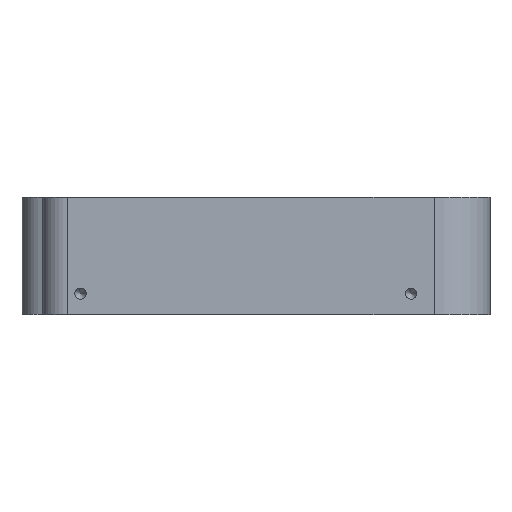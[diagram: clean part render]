
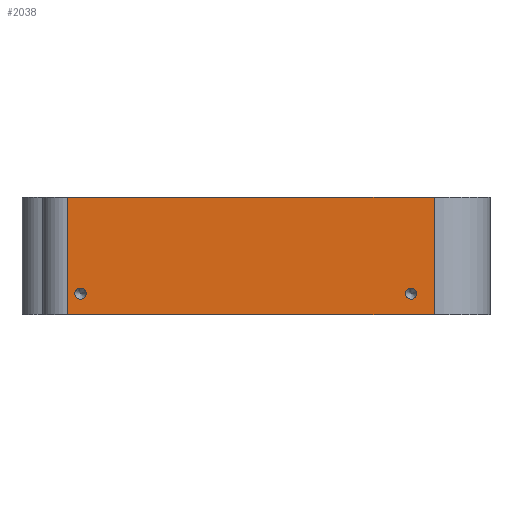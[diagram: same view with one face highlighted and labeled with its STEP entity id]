
A CAD part, left-side view. The second image highlights one B-rep face of the part: STEP entity #2038.
In plain terms, the highlighted planar face has unit normal (-1, 0, 0).
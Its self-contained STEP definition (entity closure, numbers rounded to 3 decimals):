
#44 = CYLINDRICAL_SURFACE('',#45,5.);
#45 = AXIS2_PLACEMENT_3D('',#46,#47,#48);
#46 = CARTESIAN_POINT('',(0.5,52.,0.));
#47 = DIRECTION('',(-0.,-0.,-1.));
#48 = DIRECTION('',(1.,0.,0.));
#72 = PLANE('',#73);
#73 = AXIS2_PLACEMENT_3D('',#74,#75,#76);
#74 = CARTESIAN_POINT('',(100.,14.825,23.));
#75 = DIRECTION('',(0.,0.,1.));
#76 = DIRECTION('',(1.,0.,0.));
#126 = PLANE('',#127);
#127 = AXIS2_PLACEMENT_3D('',#128,#129,#130);
#128 = CARTESIAN_POINT('',(100.,14.825,0.));
#129 = DIRECTION('',(0.,0.,1.));
#130 = DIRECTION('',(1.,0.,0.));
#174 = VERTEX_POINT('',#175);
#175 = CARTESIAN_POINT('',(-4.5,52.,23.));
#197 = EDGE_CURVE('',#198,#174,#200,.T.);
#198 = VERTEX_POINT('',#199);
#199 = CARTESIAN_POINT('',(-4.5,52.,0.));
#200 = SURFACE_CURVE('',#201,(#205,#212),.PCURVE_S1.);
#201 = LINE('',#202,#203);
#202 = CARTESIAN_POINT('',(-4.5,52.,0.));
#203 = VECTOR('',#204,1.);
#204 = DIRECTION('',(0.,0.,1.));
#205 = PCURVE('',#44,#206);
#206 = DEFINITIONAL_REPRESENTATION('',(#207),#211);
#207 = LINE('',#208,#209);
#208 = CARTESIAN_POINT('',(-3.142,0.));
#209 = VECTOR('',#210,1.);
#210 = DIRECTION('',(-0.,-1.));
#211 = ( GEOMETRIC_REPRESENTATION_CONTEXT(2) 
PARAMETRIC_REPRESENTATION_CONTEXT() REPRESENTATION_CONTEXT('2D SPACE',''
  ) );
#212 = PCURVE('',#213,#218);
#213 = PLANE('',#214);
#214 = AXIS2_PLACEMENT_3D('',#215,#216,#217);
#215 = CARTESIAN_POINT('',(-4.5,52.,0.));
#216 = DIRECTION('',(1.,0.,0.));
#217 = DIRECTION('',(0.,-1.,0.));
#218 = DEFINITIONAL_REPRESENTATION('',(#219),#223);
#219 = LINE('',#220,#221);
#220 = CARTESIAN_POINT('',(0.,0.));
#221 = VECTOR('',#222,1.);
#222 = DIRECTION('',(0.,-1.));
#223 = ( GEOMETRIC_REPRESENTATION_CONTEXT(2) 
PARAMETRIC_REPRESENTATION_CONTEXT() REPRESENTATION_CONTEXT('2D SPACE',''
  ) );
#252 = EDGE_CURVE('',#198,#253,#255,.T.);
#253 = VERTEX_POINT('',#254);
#254 = CARTESIAN_POINT('',(-4.5,-20.,0.));
#255 = SURFACE_CURVE('',#256,(#260,#267),.PCURVE_S1.);
#256 = LINE('',#257,#258);
#257 = CARTESIAN_POINT('',(-4.5,52.,0.));
#258 = VECTOR('',#259,1.);
#259 = DIRECTION('',(0.,-1.,0.));
#260 = PCURVE('',#126,#261);
#261 = DEFINITIONAL_REPRESENTATION('',(#262),#266);
#262 = LINE('',#263,#264);
#263 = CARTESIAN_POINT('',(-104.5,37.175));
#264 = VECTOR('',#265,1.);
#265 = DIRECTION('',(0.,-1.));
#266 = ( GEOMETRIC_REPRESENTATION_CONTEXT(2) 
PARAMETRIC_REPRESENTATION_CONTEXT() REPRESENTATION_CONTEXT('2D SPACE',''
  ) );
#267 = PCURVE('',#213,#268);
#268 = DEFINITIONAL_REPRESENTATION('',(#269),#273);
#269 = LINE('',#270,#271);
#270 = CARTESIAN_POINT('',(0.,0.));
#271 = VECTOR('',#272,1.);
#272 = DIRECTION('',(1.,0.));
#273 = ( GEOMETRIC_REPRESENTATION_CONTEXT(2) 
PARAMETRIC_REPRESENTATION_CONTEXT() REPRESENTATION_CONTEXT('2D SPACE',''
  ) );
#292 = CYLINDRICAL_SURFACE('',#293,11.);
#293 = AXIS2_PLACEMENT_3D('',#294,#295,#296);
#294 = CARTESIAN_POINT('',(6.5,-20.,0.));
#295 = DIRECTION('',(-0.,-0.,-1.));
#296 = DIRECTION('',(1.,0.,0.));
#926 = EDGE_CURVE('',#174,#927,#929,.T.);
#927 = VERTEX_POINT('',#928);
#928 = CARTESIAN_POINT('',(-4.5,-20.,23.));
#929 = SURFACE_CURVE('',#930,(#934,#941),.PCURVE_S1.);
#930 = LINE('',#931,#932);
#931 = CARTESIAN_POINT('',(-4.5,52.,23.));
#932 = VECTOR('',#933,1.);
#933 = DIRECTION('',(0.,-1.,0.));
#934 = PCURVE('',#72,#935);
#935 = DEFINITIONAL_REPRESENTATION('',(#936),#940);
#936 = LINE('',#937,#938);
#937 = CARTESIAN_POINT('',(-104.5,37.175));
#938 = VECTOR('',#939,1.);
#939 = DIRECTION('',(0.,-1.));
#940 = ( GEOMETRIC_REPRESENTATION_CONTEXT(2) 
PARAMETRIC_REPRESENTATION_CONTEXT() REPRESENTATION_CONTEXT('2D SPACE',''
  ) );
#941 = PCURVE('',#213,#942);
#942 = DEFINITIONAL_REPRESENTATION('',(#943),#947);
#943 = LINE('',#944,#945);
#944 = CARTESIAN_POINT('',(0.,-23.));
#945 = VECTOR('',#946,1.);
#946 = DIRECTION('',(1.,0.));
#947 = ( GEOMETRIC_REPRESENTATION_CONTEXT(2) 
PARAMETRIC_REPRESENTATION_CONTEXT() REPRESENTATION_CONTEXT('2D SPACE',''
  ) );
#2038 = ADVANCED_FACE('',(#2039,#2065,#2100),#213,.F.);
#2039 = FACE_BOUND('',#2040,.F.);
#2040 = EDGE_LOOP('',(#2041,#2042,#2043,#2064));
#2041 = ORIENTED_EDGE('',*,*,#197,.T.);
#2042 = ORIENTED_EDGE('',*,*,#926,.T.);
#2043 = ORIENTED_EDGE('',*,*,#2044,.F.);
#2044 = EDGE_CURVE('',#253,#927,#2045,.T.);
#2045 = SURFACE_CURVE('',#2046,(#2050,#2057),.PCURVE_S1.);
#2046 = LINE('',#2047,#2048);
#2047 = CARTESIAN_POINT('',(-4.5,-20.,0.));
#2048 = VECTOR('',#2049,1.);
#2049 = DIRECTION('',(0.,0.,1.));
#2050 = PCURVE('',#213,#2051);
#2051 = DEFINITIONAL_REPRESENTATION('',(#2052),#2056);
#2052 = LINE('',#2053,#2054);
#2053 = CARTESIAN_POINT('',(72.,0.));
#2054 = VECTOR('',#2055,1.);
#2055 = DIRECTION('',(0.,-1.));
#2056 = ( GEOMETRIC_REPRESENTATION_CONTEXT(2) 
PARAMETRIC_REPRESENTATION_CONTEXT() REPRESENTATION_CONTEXT('2D SPACE',''
  ) );
#2057 = PCURVE('',#292,#2058);
#2058 = DEFINITIONAL_REPRESENTATION('',(#2059),#2063);
#2059 = LINE('',#2060,#2061);
#2060 = CARTESIAN_POINT('',(-3.142,0.));
#2061 = VECTOR('',#2062,1.);
#2062 = DIRECTION('',(-0.,-1.));
#2063 = ( GEOMETRIC_REPRESENTATION_CONTEXT(2) 
PARAMETRIC_REPRESENTATION_CONTEXT() REPRESENTATION_CONTEXT('2D SPACE',''
  ) );
#2064 = ORIENTED_EDGE('',*,*,#252,.F.);
#2065 = FACE_BOUND('',#2066,.F.);
#2066 = EDGE_LOOP('',(#2067));
#2067 = ORIENTED_EDGE('',*,*,#2068,.T.);
#2068 = EDGE_CURVE('',#2069,#2069,#2071,.T.);
#2069 = VERTEX_POINT('',#2070);
#2070 = CARTESIAN_POINT('',(-4.5,49.5,5.2));
#2071 = SURFACE_CURVE('',#2072,(#2077,#2088),.PCURVE_S1.);
#2072 = CIRCLE('',#2073,1.1);
#2073 = AXIS2_PLACEMENT_3D('',#2074,#2075,#2076);
#2074 = CARTESIAN_POINT('',(-4.5,49.5,4.1));
#2075 = DIRECTION('',(-1.,0.,0.));
#2076 = DIRECTION('',(0.,0.,1.));
#2077 = PCURVE('',#213,#2078);
#2078 = DEFINITIONAL_REPRESENTATION('',(#2079),#2087);
#2079 = ( BOUNDED_CURVE() B_SPLINE_CURVE(2,(#2080,#2081,#2082,#2083,
#2084,#2085,#2086),.UNSPECIFIED.,.T.,.F.) B_SPLINE_CURVE_WITH_KNOTS((1,2
    ,2,2,2,1),(-2.094,0.,2.094,4.189,
6.283,8.378),.UNSPECIFIED.) CURVE() 
GEOMETRIC_REPRESENTATION_ITEM() RATIONAL_B_SPLINE_CURVE((1.,0.5,1.,0.5,
1.,0.5,1.)) REPRESENTATION_ITEM('') );
#2080 = CARTESIAN_POINT('',(2.5,-5.2));
#2081 = CARTESIAN_POINT('',(0.595,-5.2));
#2082 = CARTESIAN_POINT('',(1.547,-3.55));
#2083 = CARTESIAN_POINT('',(2.5,-1.9));
#2084 = CARTESIAN_POINT('',(3.453,-3.55));
#2085 = CARTESIAN_POINT('',(4.405,-5.2));
#2086 = CARTESIAN_POINT('',(2.5,-5.2));
#2087 = ( GEOMETRIC_REPRESENTATION_CONTEXT(2) 
PARAMETRIC_REPRESENTATION_CONTEXT() REPRESENTATION_CONTEXT('2D SPACE',''
  ) );
#2088 = PCURVE('',#2089,#2094);
#2089 = CYLINDRICAL_SURFACE('',#2090,1.1);
#2090 = AXIS2_PLACEMENT_3D('',#2091,#2092,#2093);
#2091 = CARTESIAN_POINT('',(-4.5,49.5,4.1));
#2092 = DIRECTION('',(1.,0.,0.));
#2093 = DIRECTION('',(0.,0.,1.));
#2094 = DEFINITIONAL_REPRESENTATION('',(#2095),#2099);
#2095 = LINE('',#2096,#2097);
#2096 = CARTESIAN_POINT('',(-0.,0.));
#2097 = VECTOR('',#2098,1.);
#2098 = DIRECTION('',(-1.,0.));
#2099 = ( GEOMETRIC_REPRESENTATION_CONTEXT(2) 
PARAMETRIC_REPRESENTATION_CONTEXT() REPRESENTATION_CONTEXT('2D SPACE',''
  ) );
#2100 = FACE_BOUND('',#2101,.F.);
#2101 = EDGE_LOOP('',(#2102));
#2102 = ORIENTED_EDGE('',*,*,#2103,.T.);
#2103 = EDGE_CURVE('',#2104,#2104,#2106,.T.);
#2104 = VERTEX_POINT('',#2105);
#2105 = CARTESIAN_POINT('',(-4.5,-15.5,5.2));
#2106 = SURFACE_CURVE('',#2107,(#2112,#2123),.PCURVE_S1.);
#2107 = CIRCLE('',#2108,1.1);
#2108 = AXIS2_PLACEMENT_3D('',#2109,#2110,#2111);
#2109 = CARTESIAN_POINT('',(-4.5,-15.5,4.1));
#2110 = DIRECTION('',(-1.,0.,0.));
#2111 = DIRECTION('',(0.,0.,1.));
#2112 = PCURVE('',#213,#2113);
#2113 = DEFINITIONAL_REPRESENTATION('',(#2114),#2122);
#2114 = ( BOUNDED_CURVE() B_SPLINE_CURVE(2,(#2115,#2116,#2117,#2118,
#2119,#2120,#2121),.UNSPECIFIED.,.T.,.F.) B_SPLINE_CURVE_WITH_KNOTS((1,2
    ,2,2,2,1),(-2.094,0.,2.094,4.189,
6.283,8.378),.UNSPECIFIED.) CURVE() 
GEOMETRIC_REPRESENTATION_ITEM() RATIONAL_B_SPLINE_CURVE((1.,0.5,1.,0.5,
1.,0.5,1.)) REPRESENTATION_ITEM('') );
#2115 = CARTESIAN_POINT('',(67.5,-5.2));
#2116 = CARTESIAN_POINT('',(65.595,-5.2));
#2117 = CARTESIAN_POINT('',(66.547,-3.55));
#2118 = CARTESIAN_POINT('',(67.5,-1.9));
#2119 = CARTESIAN_POINT('',(68.453,-3.55));
#2120 = CARTESIAN_POINT('',(69.405,-5.2));
#2121 = CARTESIAN_POINT('',(67.5,-5.2));
#2122 = ( GEOMETRIC_REPRESENTATION_CONTEXT(2) 
PARAMETRIC_REPRESENTATION_CONTEXT() REPRESENTATION_CONTEXT('2D SPACE',''
  ) );
#2123 = PCURVE('',#2124,#2129);
#2124 = CYLINDRICAL_SURFACE('',#2125,1.1);
#2125 = AXIS2_PLACEMENT_3D('',#2126,#2127,#2128);
#2126 = CARTESIAN_POINT('',(-4.5,-15.5,4.1));
#2127 = DIRECTION('',(1.,0.,0.));
#2128 = DIRECTION('',(0.,0.,1.));
#2129 = DEFINITIONAL_REPRESENTATION('',(#2130),#2134);
#2130 = LINE('',#2131,#2132);
#2131 = CARTESIAN_POINT('',(-0.,0.));
#2132 = VECTOR('',#2133,1.);
#2133 = DIRECTION('',(-1.,0.));
#2134 = ( GEOMETRIC_REPRESENTATION_CONTEXT(2) 
PARAMETRIC_REPRESENTATION_CONTEXT() REPRESENTATION_CONTEXT('2D SPACE',''
  ) );
